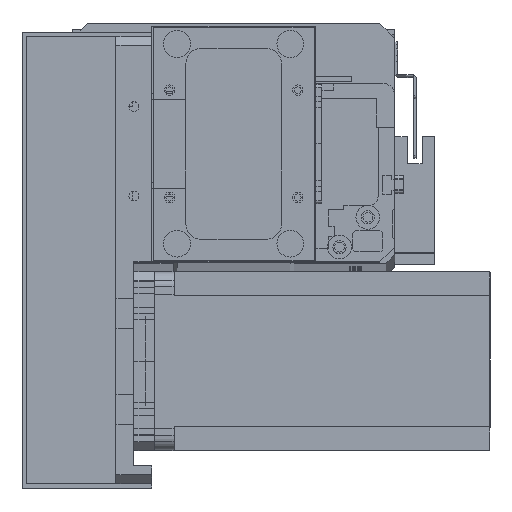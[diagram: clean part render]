
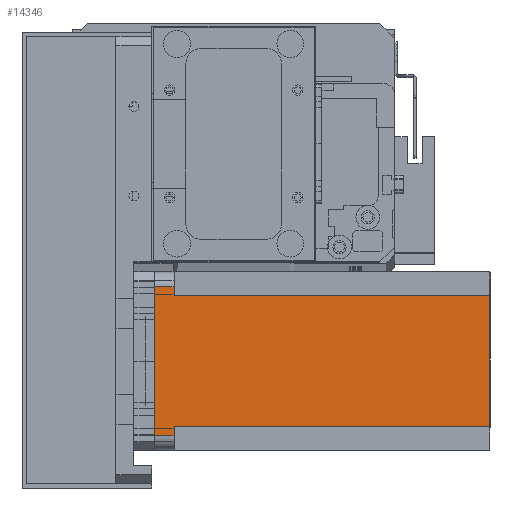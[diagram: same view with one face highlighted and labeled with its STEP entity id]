
A CAD part, top view. The second image highlights one B-rep face of the part: STEP entity #14346.
In plain terms, the highlighted planar face has unit normal (0, 0, 1) as drawn and (0, 1, 0) by its records, which use the part's own axes.
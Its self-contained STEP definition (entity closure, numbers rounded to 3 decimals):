
#723 = CARTESIAN_POINT ( 'NONE',  ( 5., 60., 0. ) ) ;
#948 = ORIENTED_EDGE ( 'NONE', *, *, #33304, .F. ) ;
#2009 = CARTESIAN_POINT ( 'NONE',  ( 55., 60., -112.5 ) ) ;
#2339 = CARTESIAN_POINT ( 'NONE',  ( 55., 60., -6.5 ) ) ;
#3022 = PLANE ( 'NONE',  #4307 ) ;
#3079 = LINE ( 'NONE', #12999, #30124 ) ;
#3292 = LINE ( 'NONE', #15470, #23362 ) ;
#4214 = CARTESIAN_POINT ( 'NONE',  ( 8., 60., -6.5 ) ) ;
#4307 = AXIS2_PLACEMENT_3D ( 'NONE', #18733, #29238, #13560 ) ;
#4637 = DIRECTION ( 'NONE',  ( 0., 0., -1. ) ) ;
#5832 = CARTESIAN_POINT ( 'NONE',  ( 52., 60., -6.5 ) ) ;
#6460 = CARTESIAN_POINT ( 'NONE',  ( 55., 60., 0. ) ) ;
#6564 = ORIENTED_EDGE ( 'NONE', *, *, #17580, .T. ) ;
#6729 = DIRECTION ( 'NONE',  ( -1., 0., 0. ) ) ;
#6997 = VERTEX_POINT ( 'NONE', #6460 ) ;
#7025 = VERTEX_POINT ( 'NONE', #14368 ) ;
#7362 = EDGE_CURVE ( 'NONE', #16674, #23837, #3079, .T. ) ;
#7373 = DIRECTION ( 'NONE',  ( 0., 0., 1. ) ) ;
#8066 = VECTOR ( 'NONE', #13719, 1000. ) ;
#8441 = ORIENTED_EDGE ( 'NONE', *, *, #13709, .F. ) ;
#9207 = LINE ( 'NONE', #25455, #22346 ) ;
#9249 = VERTEX_POINT ( 'NONE', #2339 ) ;
#9308 = ORIENTED_EDGE ( 'NONE', *, *, #29445, .T. ) ;
#9733 = LINE ( 'NONE', #14182, #28994 ) ;
#9781 = DIRECTION ( 'NONE',  ( -1., 0., 0. ) ) ;
#10969 = CARTESIAN_POINT ( 'NONE',  ( 52., 60., -112.5 ) ) ;
#11661 = CARTESIAN_POINT ( 'NONE',  ( 52., 60., -112.5 ) ) ;
#12550 = LINE ( 'NONE', #4214, #31825 ) ;
#12754 = EDGE_CURVE ( 'NONE', #6997, #17914, #25332, .T. ) ;
#12823 = DIRECTION ( 'NONE',  ( 0., 0., -1. ) ) ;
#12999 = CARTESIAN_POINT ( 'NONE',  ( 0., 60., -112.5 ) ) ;
#13560 = DIRECTION ( 'NONE',  ( 0., 0., 1. ) ) ;
#13709 = EDGE_CURVE ( 'NONE', #16674, #26006, #15036, .T. ) ;
#13719 = DIRECTION ( 'NONE',  ( 0., 0., 1. ) ) ;
#14182 = CARTESIAN_POINT ( 'NONE',  ( 52., 60., -6.5 ) ) ;
#14346 = ADVANCED_FACE ( 'NONE', ( #19172 ), #3022, .T. ) ;
#14368 = CARTESIAN_POINT ( 'NONE',  ( 5., 60., -6.5 ) ) ;
#15036 = LINE ( 'NONE', #10969, #8066 ) ;
#15072 = CARTESIAN_POINT ( 'NONE',  ( 0., 60., 0. ) ) ;
#15092 = CARTESIAN_POINT ( 'NONE',  ( 8., 60., -112.5 ) ) ;
#15101 = VERTEX_POINT ( 'NONE', #20504 ) ;
#15470 = CARTESIAN_POINT ( 'NONE',  ( 8., 60., -112.5 ) ) ;
#16395 = ORIENTED_EDGE ( 'NONE', *, *, #7362, .T. ) ;
#16674 = VERTEX_POINT ( 'NONE', #11661 ) ;
#17580 = EDGE_CURVE ( 'NONE', #6997, #9249, #26278, .T. ) ;
#17914 = VERTEX_POINT ( 'NONE', #723 ) ;
#18521 = VECTOR ( 'NONE', #4637, 1000. ) ;
#18733 = CARTESIAN_POINT ( 'NONE',  ( 0., 60., -112.5 ) ) ;
#19172 = FACE_OUTER_BOUND ( 'NONE', #20224, .T. ) ;
#20224 = EDGE_LOOP ( 'NONE', ( #31643, #6564, #20287, #8441, #16395, #948, #24901, #9308 ) ) ;
#20287 = ORIENTED_EDGE ( 'NONE', *, *, #27035, .F. ) ;
#20504 = CARTESIAN_POINT ( 'NONE',  ( 8., 60., -6.5 ) ) ;
#21990 = DIRECTION ( 'NONE',  ( 1., 0., 0. ) ) ;
#22346 = VECTOR ( 'NONE', #7373, 1000. ) ;
#23362 = VECTOR ( 'NONE', #12823, 1000. ) ;
#23837 = VERTEX_POINT ( 'NONE', #15092 ) ;
#24505 = VECTOR ( 'NONE', #9781, 1000. ) ;
#24901 = ORIENTED_EDGE ( 'NONE', *, *, #28731, .T. ) ;
#25332 = LINE ( 'NONE', #15072, #24505 ) ;
#25455 = CARTESIAN_POINT ( 'NONE',  ( 5., 60., -112.5 ) ) ;
#26006 = VERTEX_POINT ( 'NONE', #5832 ) ;
#26278 = LINE ( 'NONE', #2009, #18521 ) ;
#27035 = EDGE_CURVE ( 'NONE', #26006, #9249, #9733, .T. ) ;
#28731 = EDGE_CURVE ( 'NONE', #15101, #7025, #12550, .T. ) ;
#28770 = DIRECTION ( 'NONE',  ( -1., 0., 0. ) ) ;
#28994 = VECTOR ( 'NONE', #21990, 1000. ) ;
#29238 = DIRECTION ( 'NONE',  ( 0., 1., 0. ) ) ;
#29445 = EDGE_CURVE ( 'NONE', #7025, #17914, #9207, .T. ) ;
#30124 = VECTOR ( 'NONE', #28770, 1000. ) ;
#31643 = ORIENTED_EDGE ( 'NONE', *, *, #12754, .F. ) ;
#31825 = VECTOR ( 'NONE', #6729, 1000. ) ;
#33304 = EDGE_CURVE ( 'NONE', #15101, #23837, #3292, .T. ) ;
